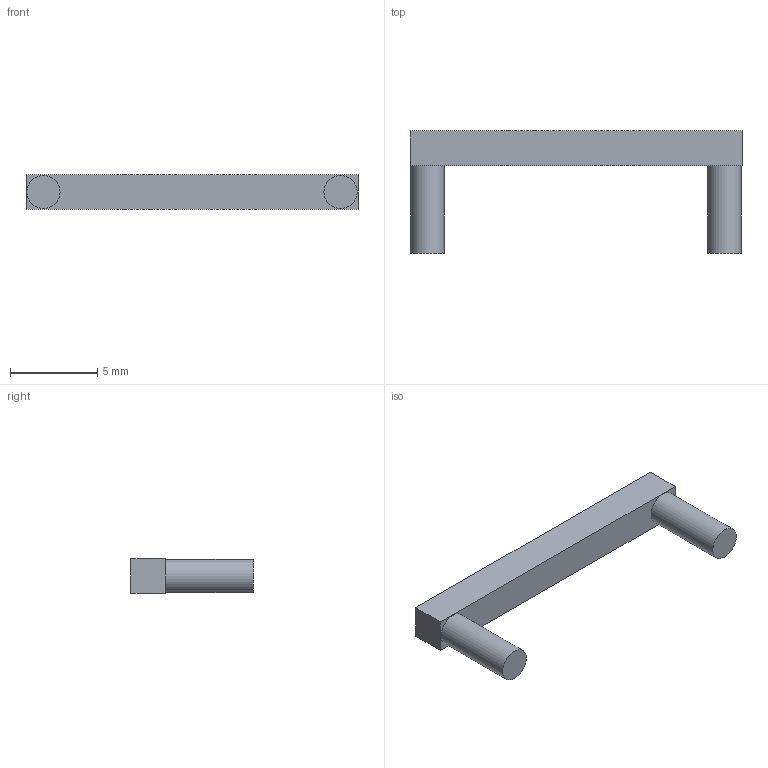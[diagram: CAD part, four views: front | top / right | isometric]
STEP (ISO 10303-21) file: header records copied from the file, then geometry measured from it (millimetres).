
FILE_DESCRIPTION(('Open CASCADE Model'),'2;1');
FILE_NAME('Open CASCADE Shape Model','2026-09-28T16:03:24',('Author'),( 'Open CASCADE'),'Open CASCADE STEP processor 7.9','Open CASCADE 7.9' ,'Unknown');
FILE_SCHEMA(('AUTOMOTIVE_DESIGN { 1 0 10303 214 1 1 1 1 }'));
Length unit declared in the file: millimetre
Products named in the file (1): Open CASCADE STEP translator 7.9 4
Bounding box: 19 x 7 x 2 mm (x, y, z)
Volume: 104.4 mm3; surface area: 219.7 mm2
Topology: 1 solids, 1 shells, 10 faces, 18 edges, 12 vertices
Faces by surface type: plane 8, cylinder 2
Full cylindrical faces by diameter (mm): 1.9 x2
Entity records: 490 total; most frequent: DIRECTION 80, CARTESIAN_POINT 77, LINE 46, VECTOR 46, ORIENTED_EDGE 36, PCURVE 36, DEFINITIONAL_REPRESENTATION 36, EDGE_CURVE 18
